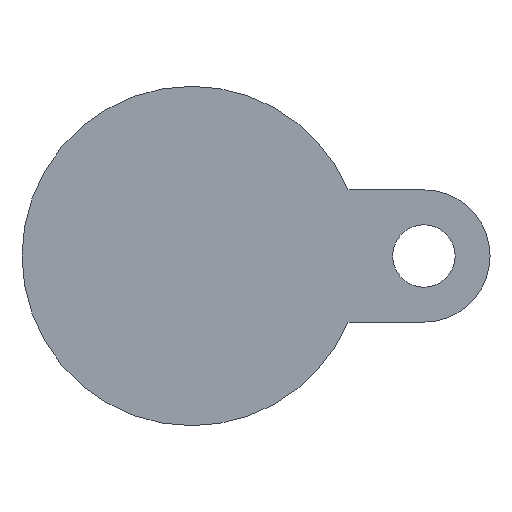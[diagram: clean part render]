
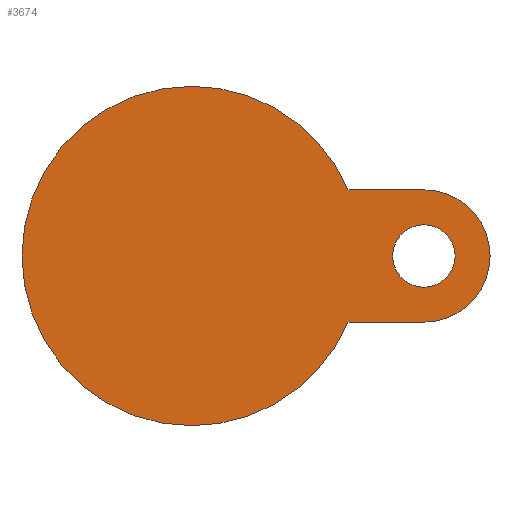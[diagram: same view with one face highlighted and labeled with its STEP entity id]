
A CAD part, front view. The second image highlights one B-rep face of the part: STEP entity #3674.
In plain terms, the highlighted planar face has unit normal (0, -1, 0).
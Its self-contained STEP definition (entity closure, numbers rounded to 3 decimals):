
#141 = DIRECTION ( 'NONE',  ( 0., 0., -1. ) ) ;
#164 = DIRECTION ( 'NONE',  ( 0., 0., -1. ) ) ;
#167 = PLANE ( 'NONE',  #4848 ) ;
#182 = AXIS2_PLACEMENT_3D ( 'NONE', #1543, #4866, #2025 ) ;
#187 = VECTOR ( 'NONE', #3320, 1000. ) ;
#222 = DIRECTION ( 'NONE',  ( 0., 0., 1. ) ) ;
#304 = EDGE_CURVE ( 'NONE', #1261, #3815, #3139, .T. ) ;
#336 = DIRECTION ( 'NONE',  ( 0., 1., 0. ) ) ;
#393 = VERTEX_POINT ( 'NONE', #5246 ) ;
#445 = CIRCLE ( 'NONE', #5056, 47.5 ) ;
#448 = DIRECTION ( 'NONE',  ( 0., 0., -1. ) ) ;
#541 = CIRCLE ( 'NONE', #182, 8.75 ) ;
#570 = CARTESIAN_POINT ( 'NONE',  ( 65., -22., -18.5 ) ) ;
#658 = CARTESIAN_POINT ( 'NONE',  ( 43.749, -22., 18.5 ) ) ;
#880 = VERTEX_POINT ( 'NONE', #658 ) ;
#910 = EDGE_LOOP ( 'NONE', ( #4346, #4512 ) ) ;
#968 = FACE_BOUND ( 'NONE', #910, .T. ) ;
#1025 = CIRCLE ( 'NONE', #4128, 8.75 ) ;
#1058 = DIRECTION ( 'NONE',  ( 0., 0., 1. ) ) ;
#1148 = ORIENTED_EDGE ( 'NONE', *, *, #2140, .T. ) ;
#1261 = VERTEX_POINT ( 'NONE', #570 ) ;
#1275 = DIRECTION ( 'NONE',  ( 0., -1., 0. ) ) ;
#1306 = CARTESIAN_POINT ( 'NONE',  ( 65., -22., 0. ) ) ;
#1347 = ORIENTED_EDGE ( 'NONE', *, *, #5314, .F. ) ;
#1357 = FACE_OUTER_BOUND ( 'NONE', #3549, .T. ) ;
#1359 = ORIENTED_EDGE ( 'NONE', *, *, #3696, .F. ) ;
#1389 = AXIS2_PLACEMENT_3D ( 'NONE', #2638, #4723, #1836 ) ;
#1543 = CARTESIAN_POINT ( 'NONE',  ( 65., -22., 0. ) ) ;
#1653 = LINE ( 'NONE', #3350, #187 ) ;
#1807 = VERTEX_POINT ( 'NONE', #3002 ) ;
#1836 = DIRECTION ( 'NONE',  ( 0., 0., 1. ) ) ;
#1968 = EDGE_CURVE ( 'NONE', #3815, #880, #1653, .T. ) ;
#2005 = CARTESIAN_POINT ( 'NONE',  ( 0., -22., 0. ) ) ;
#2025 = DIRECTION ( 'NONE',  ( 0., 0., -1. ) ) ;
#2035 = LINE ( 'NONE', #3724, #5419 ) ;
#2140 = EDGE_CURVE ( 'NONE', #2573, #1261, #2035, .T. ) ;
#2252 = DIRECTION ( 'NONE',  ( 0., -1., 0. ) ) ;
#2271 = ORIENTED_EDGE ( 'NONE', *, *, #4046, .F. ) ;
#2338 = AXIS2_PLACEMENT_3D ( 'NONE', #3494, #5268, #164 ) ;
#2360 = AXIS2_PLACEMENT_3D ( 'NONE', #2005, #336, #1058 ) ;
#2532 = CIRCLE ( 'NONE', #1389, 47.5 ) ;
#2573 = VERTEX_POINT ( 'NONE', #4815 ) ;
#2638 = CARTESIAN_POINT ( 'NONE',  ( 0., -22., 0. ) ) ;
#2714 = CARTESIAN_POINT ( 'NONE',  ( 0., -22., 0. ) ) ;
#2866 = CARTESIAN_POINT ( 'NONE',  ( 65., -22., -8.75 ) ) ;
#3002 = CARTESIAN_POINT ( 'NONE',  ( 0., -22., -47.5 ) ) ;
#3139 = CIRCLE ( 'NONE', #2338, 18.5 ) ;
#3186 = EDGE_CURVE ( 'NONE', #393, #4461, #1025, .T. ) ;
#3273 = CARTESIAN_POINT ( 'NONE',  ( 0., -22., 0. ) ) ;
#3320 = DIRECTION ( 'NONE',  ( -1., 0., 0. ) ) ;
#3350 = CARTESIAN_POINT ( 'NONE',  ( 28.666, -22., 18.5 ) ) ;
#3376 = ORIENTED_EDGE ( 'NONE', *, *, #1968, .T. ) ;
#3494 = CARTESIAN_POINT ( 'NONE',  ( 65., -22., 0. ) ) ;
#3549 = EDGE_LOOP ( 'NONE', ( #3376, #1347, #1359, #2271, #1148, #3855 ) ) ;
#3674 = ADVANCED_FACE ( 'NONE', ( #1357, #968 ), #167, .T. ) ;
#3696 = EDGE_CURVE ( 'NONE', #1807, #4097, #2532, .T. ) ;
#3724 = CARTESIAN_POINT ( 'NONE',  ( 65., -22., -18.5 ) ) ;
#3815 = VERTEX_POINT ( 'NONE', #5408 ) ;
#3855 = ORIENTED_EDGE ( 'NONE', *, *, #304, .T. ) ;
#4046 = EDGE_CURVE ( 'NONE', #2573, #1807, #5473, .T. ) ;
#4097 = VERTEX_POINT ( 'NONE', #4550 ) ;
#4107 = DIRECTION ( 'NONE',  ( 0., 1., 0. ) ) ;
#4128 = AXIS2_PLACEMENT_3D ( 'NONE', #1306, #1275, #448 ) ;
#4346 = ORIENTED_EDGE ( 'NONE', *, *, #5225, .F. ) ;
#4461 = VERTEX_POINT ( 'NONE', #2866 ) ;
#4512 = ORIENTED_EDGE ( 'NONE', *, *, #3186, .F. ) ;
#4550 = CARTESIAN_POINT ( 'NONE',  ( 0., -22., 47.5 ) ) ;
#4723 = DIRECTION ( 'NONE',  ( 0., 1., 0. ) ) ;
#4815 = CARTESIAN_POINT ( 'NONE',  ( 43.749, -22., -18.5 ) ) ;
#4848 = AXIS2_PLACEMENT_3D ( 'NONE', #2714, #2252, #141 ) ;
#4866 = DIRECTION ( 'NONE',  ( 0., -1., 0. ) ) ;
#5056 = AXIS2_PLACEMENT_3D ( 'NONE', #3273, #4107, #222 ) ;
#5225 = EDGE_CURVE ( 'NONE', #4461, #393, #541, .T. ) ;
#5246 = CARTESIAN_POINT ( 'NONE',  ( 65., -22., 8.75 ) ) ;
#5268 = DIRECTION ( 'NONE',  ( 0., -1., 0. ) ) ;
#5314 = EDGE_CURVE ( 'NONE', #4097, #880, #445, .T. ) ;
#5408 = CARTESIAN_POINT ( 'NONE',  ( 65., -22., 18.5 ) ) ;
#5419 = VECTOR ( 'NONE', #5428, 1000. ) ;
#5428 = DIRECTION ( 'NONE',  ( 1., 0., 0. ) ) ;
#5473 = CIRCLE ( 'NONE', #2360, 47.5 ) ;
